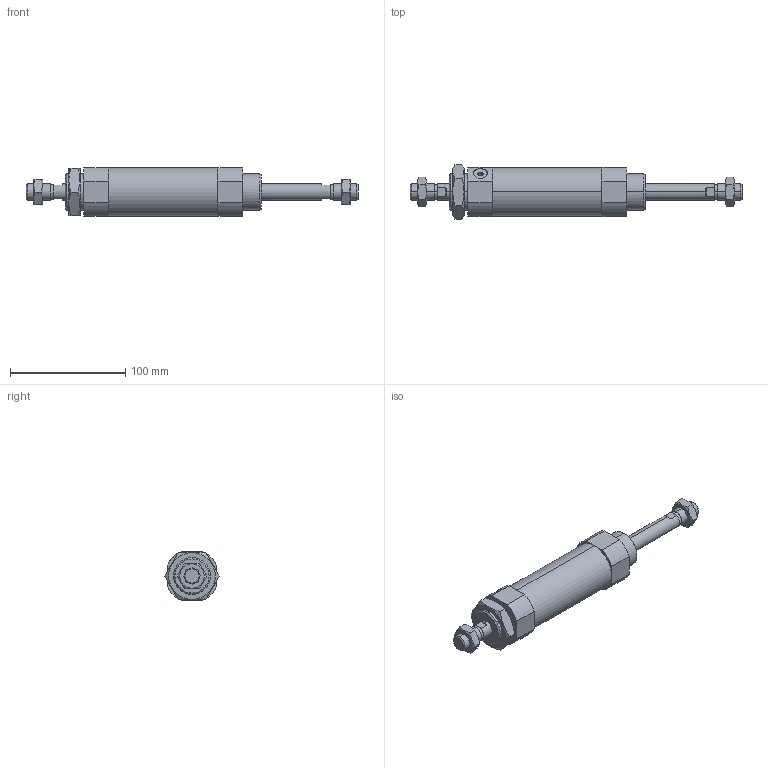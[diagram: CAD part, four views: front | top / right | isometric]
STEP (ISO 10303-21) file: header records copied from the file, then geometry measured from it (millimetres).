
FILE_DESCRIPTION (( 'STEP AP203' ), '1' );
FILE_NAME ('CSM2B40-50-P.STEP', '2020-07-20T16:50:19', ( '' ), ( '' ), 'SwSTEP 2.0', 'SolidWorks 2019', '' );
FILE_SCHEMA (( 'CONFIG_CONTROL_DESIGN' ));
Length unit declared in the file: millimetre
Products named in the file (1): CSM2B40-50-P
Bounding box: 288 x 47.34 x 42.5 mm (x, y, z)
Volume: 197666.1 mm3; surface area: 62186.1 mm2
Topology: 5 solids, 5 shells, 155 faces, 362 edges, 227 vertices
Faces by surface type: plane 63, cylinder 48, cone 44
Entity records: 5729 total; most frequent: CARTESIAN_POINT 2109, DIRECTION 750, ORIENTED_EDGE 720, EDGE_CURVE 360, AXIS2_PLACEMENT_3D 296, VERTEX_POINT 227, EDGE_LOOP 179, VECTOR 158
